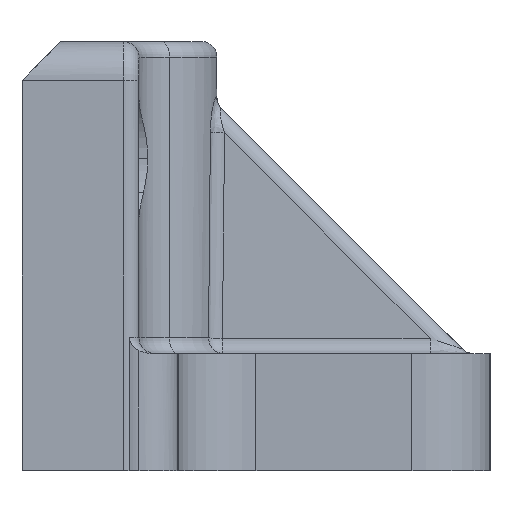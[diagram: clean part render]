
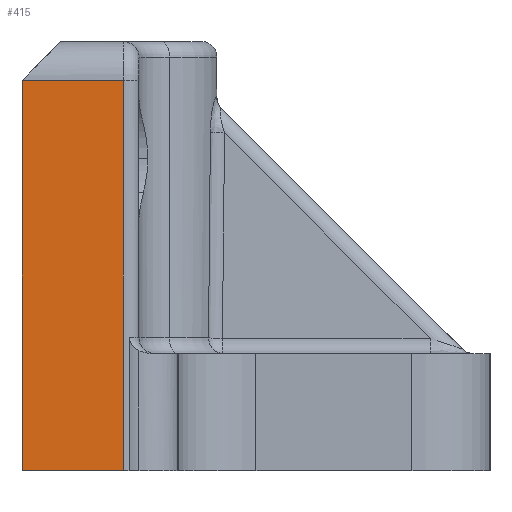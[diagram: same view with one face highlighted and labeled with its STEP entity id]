
A CAD part, left-side view. The second image highlights one B-rep face of the part: STEP entity #415.
In plain terms, the highlighted planar face has unit normal (-1, 0, 0).
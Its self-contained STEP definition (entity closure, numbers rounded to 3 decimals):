
#415=ADVANCED_FACE('Kopie von Solid.1',(#951),#952,.F.);
#951=FACE_OUTER_BOUND('',#2272,.T.);
#952=PLANE('',#2273);
#2272=EDGE_LOOP('',(#4221,#4222,#4223,#4224));
#2273=AXIS2_PLACEMENT_3D('',#4225,#4226,#4227);
#4221=ORIENTED_EDGE('',*,*,#5649,.T.);
#4222=ORIENTED_EDGE('',*,*,#5673,.F.);
#4223=ORIENTED_EDGE('',*,*,#5663,.F.);
#4224=ORIENTED_EDGE('',*,*,#5424,.T.);
#4225=CARTESIAN_POINT('',(-157.5,-55.0,24.));
#4226=DIRECTION('',(1.0,0.0,0.0));
#4227=DIRECTION('',(0.0,1.0,0.0));
#5424=EDGE_CURVE('',#6313,#6311,#6314,.F.);
#5649=EDGE_CURVE('',#6311,#6651,#6653,.F.);
#5663=EDGE_CURVE('',#6313,#6671,#6673,.T.);
#5673=EDGE_CURVE('',#6671,#6651,#6687,.T.);
#6311=VERTEX_POINT('',#7599);
#6313=VERTEX_POINT('',#7601);
#6314=LINE('',#7602,#7603);
#6651=VERTEX_POINT('',#8266);
#6653=LINE('',#8268,#8269);
#6671=VERTEX_POINT('',#8295);
#6673=LINE('',#8298,#8299);
#6687=LINE('',#8313,#8314);
#7599=CARTESIAN_POINT('',(-157.5,-53.0,24.));
#7601=CARTESIAN_POINT('',(-157.5,-40.0,24.));
#7602=CARTESIAN_POINT('',(-157.5,-46.5,24.));
#7603=VECTOR('',#9520,1.0);
#8266=CARTESIAN_POINT('',(-157.5,-53.0,74.));
#8268=CARTESIAN_POINT('',(-157.5,-53.0,49.));
#8269=VECTOR('',#9851,1.0);
#8295=CARTESIAN_POINT('',(-157.5,-40.0,74.));
#8298=CARTESIAN_POINT('',(-157.5,-40.0,49.));
#8299=VECTOR('',#9864,1.0);
#8313=CARTESIAN_POINT('',(-157.5,-46.5,74.));
#8314=VECTOR('',#9889,1.0);
#9520=DIRECTION('',(0.0,1.0,0.0));
#9851=DIRECTION('',(0.0,0.0,-1.0));
#9864=DIRECTION('',(0.0,0.0,1.0));
#9889=DIRECTION('',(0.0,-1.0,0.0));
